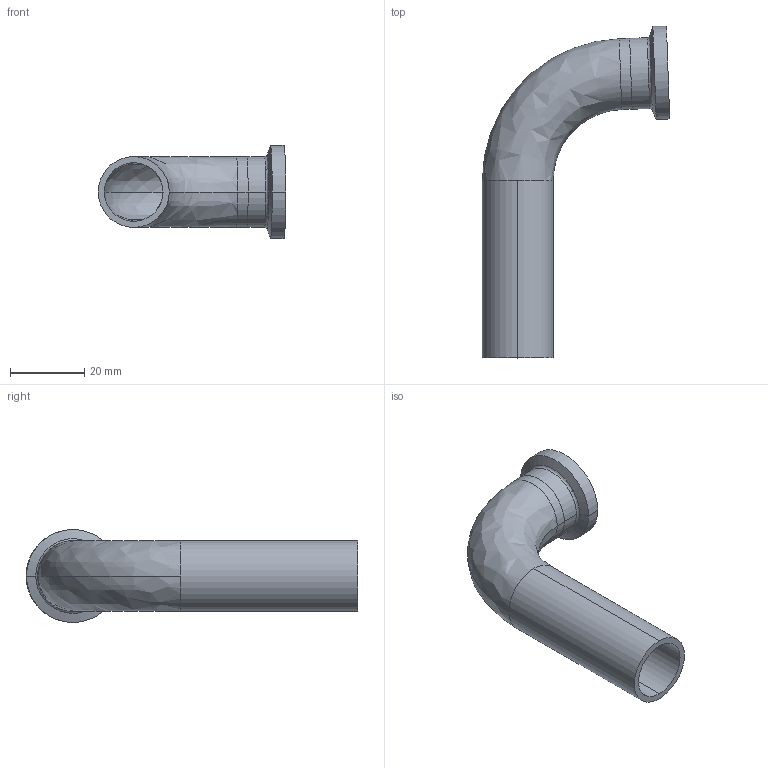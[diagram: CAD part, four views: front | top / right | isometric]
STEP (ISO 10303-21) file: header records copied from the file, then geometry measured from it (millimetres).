
FILE_DESCRIPTION (( 'STEP AP214' ), '1' );
FILE_NAME ('TE2C886L.75-...STEP', '2016-05-22T07:53:24', ( 'eran' ), ( '' ), 'SwSTEP 2.0', 'SolidWorks 2016', '' );
FILE_SCHEMA (( 'AUTOMOTIVE_DESIGN' ));
Length unit declared in the file: millimetre
Products named in the file (1): TE2C886L.75-..
Bounding box: 50.35 x 89.2 x 24.99 mm (x, y, z)
Volume: 9999.1 mm3; surface area: 12290.4 mm2
Topology: 2 solids, 2 shells, 37 faces, 90 edges, 58 vertices
Faces by surface type: cylinder 16, bspline 12, plane 5, cone 4
Entity records: 1305 total; most frequent: CARTESIAN_POINT 378, DIRECTION 204, ORIENTED_EDGE 180, AXIS2_PLACEMENT_3D 92, EDGE_CURVE 90, CIRCLE 66, VERTEX_POINT 58, EDGE_LOOP 42
